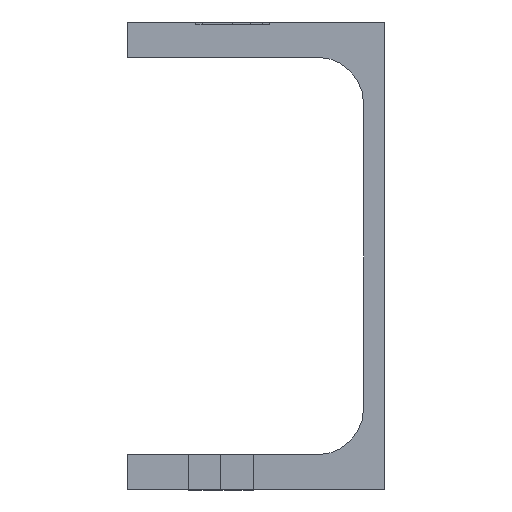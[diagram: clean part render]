
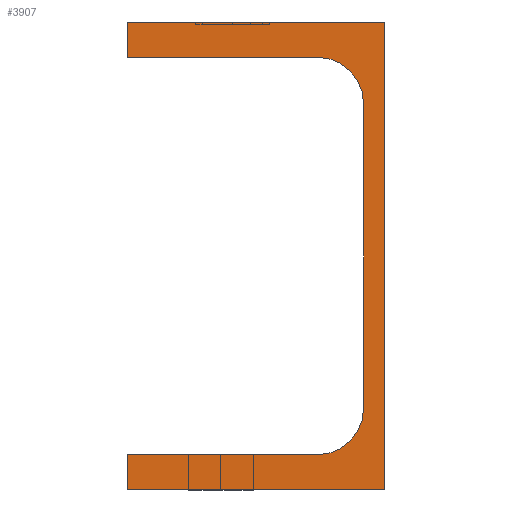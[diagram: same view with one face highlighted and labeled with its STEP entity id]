
A CAD part, left-side view. The second image highlights one B-rep face of the part: STEP entity #3907.
In plain terms, the highlighted planar face has unit normal (-1, 0, 0).
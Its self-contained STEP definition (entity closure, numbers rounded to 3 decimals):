
#38 = FACE_OUTER_BOUND ( 'NONE', #571, .T. ) ;
#76 = LINE ( 'NONE', #3653, #748 ) ;
#169 = VECTOR ( 'NONE', #326, 1000. ) ;
#183 = CARTESIAN_POINT ( 'NONE',  ( -55., 2055., 2290. ) ) ;
#188 = VERTEX_POINT ( 'NONE', #3367 ) ;
#191 = CARTESIAN_POINT ( 'NONE',  ( -55., 2055., 2382.5 ) ) ;
#197 = ORIENTED_EDGE ( 'NONE', *, *, #2593, .T. ) ;
#326 = DIRECTION ( 'NONE',  ( 0., 0., 1. ) ) ;
#370 = DIRECTION ( 'NONE',  ( -1., 0., 0. ) ) ;
#406 = EDGE_CURVE ( 'NONE', #1797, #3401, #2076, .T. ) ;
#490 = LINE ( 'NONE', #1705, #1815 ) ;
#495 = VERTEX_POINT ( 'NONE', #2160 ) ;
#571 = EDGE_LOOP ( 'NONE', ( #735, #3893, #197, #754, #2397, #2937, #2639, #1282, #1435, #2638 ) ) ;
#581 = CARTESIAN_POINT ( 'NONE',  ( -55., 2014.5, 2297.5 ) ) ;
#656 = CARTESIAN_POINT ( 'NONE',  ( -55., 2055., 2297.5 ) ) ;
#694 = EDGE_CURVE ( 'NONE', #1116, #2858, #1264, .T. ) ;
#703 = CARTESIAN_POINT ( 'NONE',  ( -55., 2014.5, 2372.5 ) ) ;
#735 = ORIENTED_EDGE ( 'NONE', *, *, #1165, .T. ) ;
#748 = VECTOR ( 'NONE', #1000, 1000. ) ;
#754 = ORIENTED_EDGE ( 'NONE', *, *, #694, .T. ) ;
#779 = CARTESIAN_POINT ( 'NONE',  ( -55., 2000., 2390. ) ) ;
#793 = EDGE_CURVE ( 'NONE', #1710, #1797, #490, .T. ) ;
#851 = DIRECTION ( 'NONE',  ( 0., 0., 1. ) ) ;
#902 = EDGE_CURVE ( 'NONE', #2858, #495, #1728, .T. ) ;
#1000 = DIRECTION ( 'NONE',  ( 0., 0., -1. ) ) ;
#1116 = VERTEX_POINT ( 'NONE', #779 ) ;
#1165 = EDGE_CURVE ( 'NONE', #3898, #188, #76, .T. ) ;
#1178 = AXIS2_PLACEMENT_3D ( 'NONE', #703, #1634, #2868 ) ;
#1212 = PLANE ( 'NONE',  #1746 ) ;
#1259 = VECTOR ( 'NONE', #3193, 1000. ) ;
#1264 = LINE ( 'NONE', #3698, #3728 ) ;
#1282 = ORIENTED_EDGE ( 'NONE', *, *, #793, .T. ) ;
#1412 = VECTOR ( 'NONE', #3614, 1000. ) ;
#1435 = ORIENTED_EDGE ( 'NONE', *, *, #406, .T. ) ;
#1459 = EDGE_CURVE ( 'NONE', #495, #2046, #2428, .T. ) ;
#1634 = DIRECTION ( 'NONE',  ( 1., 0., 0. ) ) ;
#1688 = DIRECTION ( 'NONE',  ( 0., 0., -1. ) ) ;
#1702 = EDGE_CURVE ( 'NONE', #2046, #1710, #3038, .T. ) ;
#1705 = CARTESIAN_POINT ( 'NONE',  ( -55., 2004.5, 2372.5 ) ) ;
#1710 = VERTEX_POINT ( 'NONE', #2070 ) ;
#1728 = LINE ( 'NONE', #2706, #1412 ) ;
#1746 = AXIS2_PLACEMENT_3D ( 'NONE', #3651, #370, #3355 ) ;
#1754 = CARTESIAN_POINT ( 'NONE',  ( -55., 2014.5, 2382.5 ) ) ;
#1797 = VERTEX_POINT ( 'NONE', #3725 ) ;
#1815 = VECTOR ( 'NONE', #1688, 1000. ) ;
#1867 = CARTESIAN_POINT ( 'NONE',  ( -55., 2000., 2290. ) ) ;
#1980 = EDGE_CURVE ( 'NONE', #3401, #3898, #3643, .T. ) ;
#2046 = VERTEX_POINT ( 'NONE', #1754 ) ;
#2070 = CARTESIAN_POINT ( 'NONE',  ( -55., 2004.5, 2372.5 ) ) ;
#2076 = CIRCLE ( 'NONE', #2272, 10. ) ;
#2160 = CARTESIAN_POINT ( 'NONE',  ( -55., 2055., 2382.5 ) ) ;
#2181 = DIRECTION ( 'NONE',  ( 0., 1., 0. ) ) ;
#2272 = AXIS2_PLACEMENT_3D ( 'NONE', #3321, #2418, #851 ) ;
#2278 = EDGE_CURVE ( 'NONE', #188, #3114, #2909, .T. ) ;
#2397 = ORIENTED_EDGE ( 'NONE', *, *, #902, .T. ) ;
#2405 = CARTESIAN_POINT ( 'NONE',  ( -55., 2014.5, 2297.5 ) ) ;
#2418 = DIRECTION ( 'NONE',  ( 1., 0., 0. ) ) ;
#2428 = LINE ( 'NONE', #191, #3274 ) ;
#2534 = DIRECTION ( 'NONE',  ( 0., 1., 0. ) ) ;
#2593 = EDGE_CURVE ( 'NONE', #3114, #1116, #2675, .T. ) ;
#2638 = ORIENTED_EDGE ( 'NONE', *, *, #1980, .T. ) ;
#2639 = ORIENTED_EDGE ( 'NONE', *, *, #1702, .T. ) ;
#2649 = CARTESIAN_POINT ( 'NONE',  ( -55., 2055., 2390. ) ) ;
#2675 = LINE ( 'NONE', #2813, #169 ) ;
#2706 = CARTESIAN_POINT ( 'NONE',  ( -55., 2055., 2390. ) ) ;
#2813 = CARTESIAN_POINT ( 'NONE',  ( -55., 2000., 2290. ) ) ;
#2858 = VERTEX_POINT ( 'NONE', #2649 ) ;
#2868 = DIRECTION ( 'NONE',  ( 0., 0., 1. ) ) ;
#2909 = LINE ( 'NONE', #183, #1259 ) ;
#2937 = ORIENTED_EDGE ( 'NONE', *, *, #1459, .T. ) ;
#3038 = CIRCLE ( 'NONE', #1178, 10. ) ;
#3114 = VERTEX_POINT ( 'NONE', #1867 ) ;
#3193 = DIRECTION ( 'NONE',  ( 0., -1., 0. ) ) ;
#3274 = VECTOR ( 'NONE', #3543, 1000. ) ;
#3321 = CARTESIAN_POINT ( 'NONE',  ( -55., 2014.5, 2307.5 ) ) ;
#3355 = DIRECTION ( 'NONE',  ( 0., 0., 1. ) ) ;
#3367 = CARTESIAN_POINT ( 'NONE',  ( -55., 2055., 2290. ) ) ;
#3401 = VERTEX_POINT ( 'NONE', #2405 ) ;
#3543 = DIRECTION ( 'NONE',  ( 0., -1., 0. ) ) ;
#3614 = DIRECTION ( 'NONE',  ( 0., 0., -1. ) ) ;
#3643 = LINE ( 'NONE', #581, #3800 ) ;
#3651 = CARTESIAN_POINT ( 'NONE',  ( -55., 3690., 2340. ) ) ;
#3653 = CARTESIAN_POINT ( 'NONE',  ( -55., 2055., 2297.5 ) ) ;
#3698 = CARTESIAN_POINT ( 'NONE',  ( -55., 2000., 2390. ) ) ;
#3725 = CARTESIAN_POINT ( 'NONE',  ( -55., 2004.5, 2307.5 ) ) ;
#3728 = VECTOR ( 'NONE', #2534, 1000. ) ;
#3800 = VECTOR ( 'NONE', #2181, 1000. ) ;
#3893 = ORIENTED_EDGE ( 'NONE', *, *, #2278, .T. ) ;
#3898 = VERTEX_POINT ( 'NONE', #656 ) ;
#3907 = ADVANCED_FACE ( 'NONE', ( #38 ), #1212, .T. ) ;
